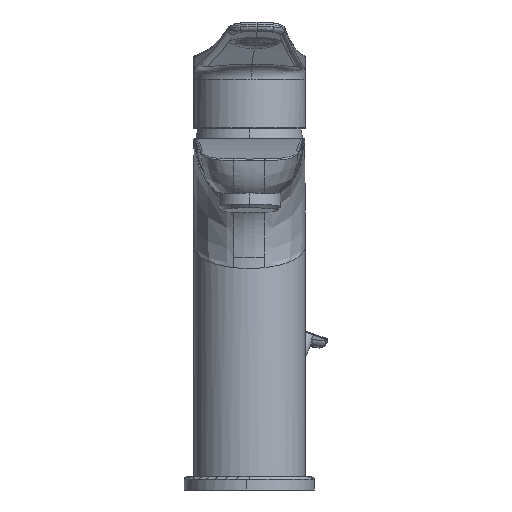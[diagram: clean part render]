
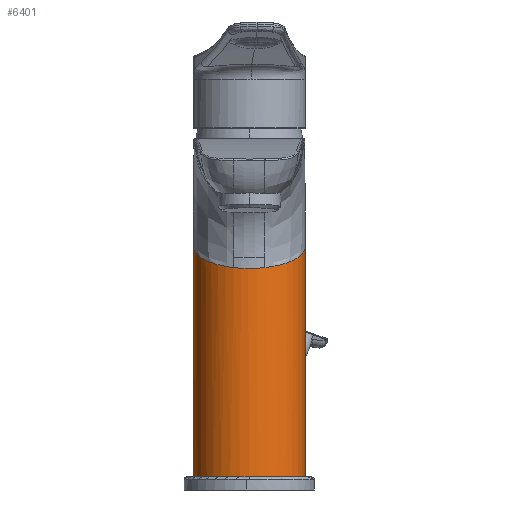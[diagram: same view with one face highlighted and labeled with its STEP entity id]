
A CAD part, left-side view. The second image highlights one B-rep face of the part: STEP entity #6401.
In plain terms, the highlighted cylindrical face has radius 21.487 mm (diameter 42.973 mm), a partial arc.
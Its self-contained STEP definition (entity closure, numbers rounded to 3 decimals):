
#278=CARTESIAN_POINT('',(0.002,-21.487,66.07));
#345=CARTESIAN_POINT('',(-20.639,5.974,58.023));
#360=CARTESIAN_POINT('',(-20.631,-5.998,58.026));
#361=CARTESIAN_POINT('',(-20.905,-5.055,57.919));
#362=CARTESIAN_POINT('',(-21.335,-3.082,57.755));
#363=CARTESIAN_POINT('',(-21.561,-0.013,
57.673));
#364=CARTESIAN_POINT('',(-21.339,3.058,57.753));
#365=CARTESIAN_POINT('',(-20.911,5.031,57.916));
#366=CARTESIAN_POINT('',(-20.639,5.974,58.023));
#368=CARTESIAN_POINT('',(0.002,-21.487,66.07));
#369=CARTESIAN_POINT('',(-1.353,-21.487,65.535));
#370=CARTESIAN_POINT('',(-4.077,-21.229,64.482));
#371=CARTESIAN_POINT('',(-8.022,-20.074,62.941));
#372=CARTESIAN_POINT('',(-11.713,-18.173,61.503));
#373=CARTESIAN_POINT('',(-15.009,-15.567,60.218));
#374=CARTESIAN_POINT('',(-17.774,-12.323,59.14));
#375=CARTESIAN_POINT('',(-19.598,-9.037,58.429));
#376=CARTESIAN_POINT('',(-20.385,-6.844,58.122));
#377=CARTESIAN_POINT('',(-20.631,-5.998,58.026));
#379=CARTESIAN_POINT('',(-20.639,5.974,58.023));
#380=CARTESIAN_POINT('',(-20.391,6.83,58.119));
#381=CARTESIAN_POINT('',(-19.603,9.033,58.426));
#382=CARTESIAN_POINT('',(-17.773,12.327,59.14));
#383=CARTESIAN_POINT('',(-15.009,15.57,60.217));
#384=CARTESIAN_POINT('',(-11.713,18.177,61.503));
#385=CARTESIAN_POINT('',(-8.022,20.077,62.94));
#386=CARTESIAN_POINT('',(-4.076,21.234,64.481));
#387=CARTESIAN_POINT('',(-1.355,21.487,65.534));
#388=CARTESIAN_POINT('',(0.,21.487,66.069));
#394=DIRECTION('',(0.,0.,-1.));
#395=VECTOR('',#394,88.522);
#396=CARTESIAN_POINT('',(0.002,-21.487,66.07));
#397=LINE('',#396,#395);
#642=DIRECTION('',(0.,0.,1.));
#643=VECTOR('',#642,88.522);
#644=CARTESIAN_POINT('',(0.,21.486,
-22.453));
#645=LINE('',#644,#643);
#654=CARTESIAN_POINT('',(0.,21.486,
-22.453));
#670=CARTESIAN_POINT('',(0.002,-0.001,
-22.453));
#671=DIRECTION('',(0.,0.,-1.));
#672=DIRECTION('',(0.,-1.,0.));
#673=AXIS2_PLACEMENT_3D('',#670,#671,#672);
#683=CARTESIAN_POINT('',(0.,-21.487,
-22.453));
#4869=VERTEX_POINT('',#683);
#4874=VERTEX_POINT('',#654);
#4885=VERTEX_POINT('',#345);
#4887=VERTEX_POINT('',#388);
#4899=VERTEX_POINT('',#278);
#4900=VERTEX_POINT('',#377);
#6385=CARTESIAN_POINT('',(0.002,-0.001,
46.189));
#6386=DIRECTION('',(0.,0.,1.));
#6387=DIRECTION('',(0.,1.,0.));
#6388=AXIS2_PLACEMENT_3D('',#6385,#6386,#6387);
#6389=CYLINDRICAL_SURFACE('',#6388,21.487);
#6390=ORIENTED_EDGE('',*,*,#6378,.F.);
#6391=ORIENTED_EDGE('',*,*,#6052,.F.);
#6393=ORIENTED_EDGE('',*,*,#6392,.T.);
#6395=ORIENTED_EDGE('',*,*,#6394,.T.);
#6397=ORIENTED_EDGE('',*,*,#6396,.T.);
#6398=ORIENTED_EDGE('',*,*,#6324,.F.);
#6399=EDGE_LOOP('',(#6390,#6391,#6393,#6395,#6397,#6398));
#6400=FACE_OUTER_BOUND('',#6399,.F.);
#6401=ADVANCED_FACE('',(#6400),#6389,.T.);
#367=B_SPLINE_CURVE_WITH_KNOTS('',3,(#360,#361,#362,#363,#364,#365,#366),
.UNSPECIFIED.,.F.,.F.,(4,1,1,1,4),(0.,0.244,0.5,
0.756,1.),.UNSPECIFIED.);
#378=B_SPLINE_CURVE_WITH_KNOTS('',3,(#368,#369,#370,#371,#372,#373,#374,#375,
#376,#377),.UNSPECIFIED.,.F.,.F.,(4,1,1,1,1,1,1,4),(0.,0.151,
0.303,0.454,0.605,0.757,
0.908,1.),.UNSPECIFIED.);
#389=B_SPLINE_CURVE_WITH_KNOTS('',3,(#379,#380,#381,#382,#383,#384,#385,#386,
#387,#388),.UNSPECIFIED.,.F.,.F.,(4,1,1,1,1,1,1,4),(0.,0.093,
0.244,0.395,0.546,0.698,
0.849,1.),.UNSPECIFIED.);
#674=CIRCLE('',#673,21.487);
#6052=EDGE_CURVE('',#4899,#4900,#378,.T.);
#6324=EDGE_CURVE('',#4885,#4887,#389,.T.);
#6378=EDGE_CURVE('',#4900,#4885,#367,.T.);
#6392=EDGE_CURVE('',#4899,#4869,#397,.T.);
#6394=EDGE_CURVE('',#4869,#4874,#674,.T.);
#6396=EDGE_CURVE('',#4874,#4887,#645,.T.);
